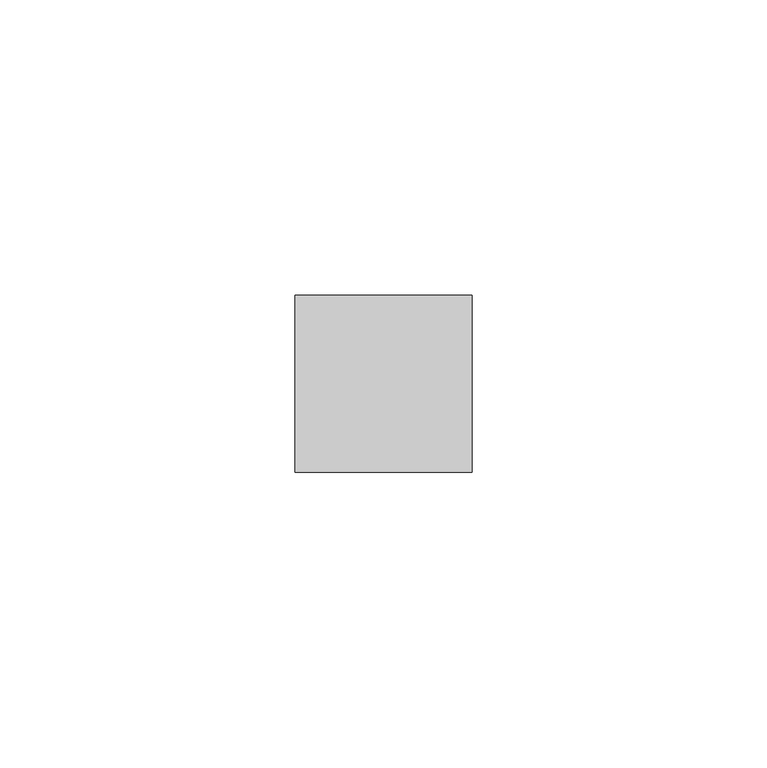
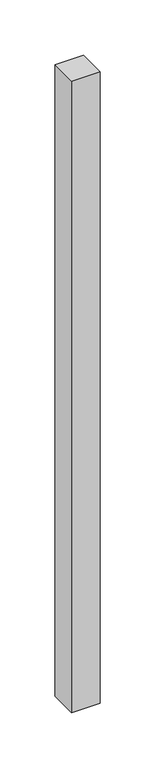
"""IFC4 building model written with IfcOpenShell, lengths in millimetres: member geometry, 矩形竖梃 : 30mm 正方形."""

from ifc_helpers import new_model, si_unit, frame, origin, place, context, project, spatial, polyline, outline, extrude, source, transform, mapped, element, save


def member_a1c97f35(model_context):
    return source(origin(), model_context, "Body", "SweptSolid", [
        extrude(outline(polyline([(15.0, 15.0), (15.0, -15.0), (-15.0, -15.0), (-15.0, 15.0), (15.0, 15.0)])), frame((0.0, 0.0, -700.0), z_axis=(0.0, 0.0, 1.0), x_axis=(1.0, 0.0, 0.0)), (0.0, 0.0, 1.0), 700.0),
    ])


if __name__ == "__main__":
    model = new_model("IFC4")
    model_context = context("Model", 3, world=origin())
    ifc_project = project(units=[si_unit("LENGTHUNIT", "METRE", prefix="MILLI")], contexts=[model_context])
    site = spatial("IfcSite", under=ifc_project)
    building = spatial("IfcBuilding", under=site)
    placement = place(None, origin())
    member_shape = member_a1c97f35(model_context)
    element("IfcMember", 1, ObjectType="矩形竖梃 : 30mm 正方形", at=placement, inside=building, context=model_context, shape_type="MappedRepresentation", body=[
        mapped(member_shape, transform((0.0, 0.0, 0.0), x_axis=(1.0, 0.0, 0.0), y_axis=(0.0, 1.0, 0.0), z_axis=(0.0, 0.0, 1.0))),
    ])
    save(model, "model.ifc")
